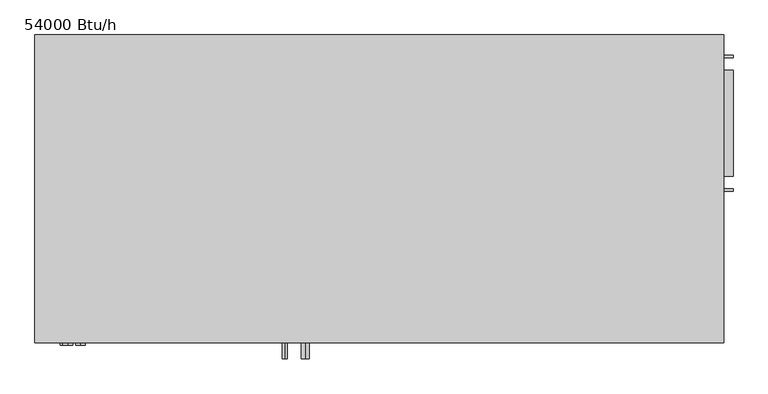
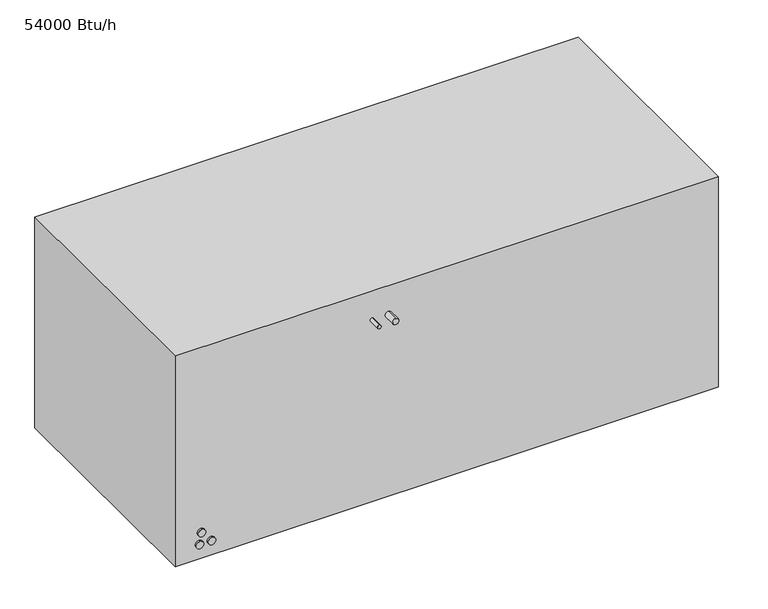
"""IFC4 building model written with IfcOpenShell, lengths in millimetres: proxy geometry, Lennox-VRF-Concealed_Vertical_Air_Handler-VVCA-2P_Series : 54000 Btu/h."""

from ifc_helpers import new_model, si_unit, point, frame, frame_2d, origin, place, context, project, spatial, polyline, circle_curve, trimmed, segment, composite_curve, outline, extrude, faceted_brep, source, transform, mapped, element, save


def proxy_54000_btu_h_7d7a4dff(model_context):
    return source(origin(), model_context, "Body", "SolidModel", [
        extrude(outline(composite_curve([segment(trimmed(circle_curve(frame_2d((40.0, -632.0)), 9.525), [point((49.525, -632.0))], [point((30.475, -632.0))], False, "CARTESIAN"), True, "CONTINUOUS"), segment(trimmed(circle_curve(frame_2d((40.0, -632.0)), 9.525), [point((30.475, -632.0))], [point((49.525, -632.0))], False, "CARTESIAN"), True, "CONTINUOUS")], self_intersect=False)), frame((0.0, -310.0, 0.0), z_axis=(0.0, 1.0, 0.0), x_axis=(0.0, 0.0, 1.0)), (0.0, 0.0, 1.0), 5.0),
        extrude(outline(composite_curve([segment(trimmed(circle_curve(frame_2d((70.0, -627.0)), 9.525), [point((79.525, -627.0))], [point((60.475, -627.0))], False, "CARTESIAN"), True, "CONTINUOUS"), segment(trimmed(circle_curve(frame_2d((70.0, -627.0)), 9.525), [point((60.475, -627.0))], [point((79.525, -627.0))], False, "CARTESIAN"), True, "CONTINUOUS")], self_intersect=False)), frame((0.0, -310.0, 0.0), z_axis=(0.0, 1.0, 0.0), x_axis=(0.0, 0.0, 1.0)), (0.0, 0.0, 1.0), 5.0),
        extrude(outline(composite_curve([segment(trimmed(circle_curve(frame_2d((40.0, -602.0)), 9.525), [point((49.525, -602.0))], [point((30.475, -602.0))], False, "CARTESIAN"), True, "CONTINUOUS"), segment(trimmed(circle_curve(frame_2d((40.0, -602.0)), 9.525), [point((30.475, -602.0))], [point((49.525, -602.0))], False, "CARTESIAN"), True, "CONTINUOUS")], self_intersect=False)), frame((0.0, -310.0, 0.0), z_axis=(0.0, 1.0, 0.0), x_axis=(0.0, 0.0, 1.0)), (0.0, 0.0, 1.0), 5.0),
        extrude(outline(composite_curve([segment(trimmed(circle_curve(frame_2d((484.0, -197.0)), 4.7625), [point((488.7625, -197.0))], [point((479.2375, -197.0))], False, "CARTESIAN"), True, "CONTINUOUS"), segment(trimmed(circle_curve(frame_2d((484.0, -197.0)), 4.7625), [point((479.2375, -197.0))], [point((488.7625, -197.0))], False, "CARTESIAN"), True, "CONTINUOUS")], self_intersect=False)), frame((0.0, -337.0, 0.0), z_axis=(0.0, 1.0, 0.0), x_axis=(0.0, 0.0, 1.0)), (0.0, 0.0, 1.0), 32.0),
        extrude(outline(composite_curve([segment(trimmed(circle_curve(frame_2d((484.0, -156.0)), 7.9375), [point((491.9375, -156.0))], [point((476.0625, -156.0))], False, "CARTESIAN"), True, "CONTINUOUS"), segment(trimmed(circle_curve(frame_2d((484.0, -156.0)), 7.9375), [point((476.0625, -156.0))], [point((491.9375, -156.0))], False, "CARTESIAN"), True, "CONTINUOUS")], self_intersect=False)), frame((0.0, -337.0, 0.0), z_axis=(0.0, 1.0, 0.0), x_axis=(0.0, 0.0, 1.0)), (0.0, 0.0, 1.0), 32.0),
        extrude(outline(polyline([(692.0, 235.0), (692.0, 25.0), (673.0, 25.0), (673.0, 235.0), (692.0, 235.0)])), frame((0.0, 0.0, 527.5), z_axis=(0.0, 0.0, 1.0), x_axis=(1.0, 0.0, 0.0)), (0.0, 0.0, 1.0), 5.0),
        extrude(outline(polyline([(692.0, 235.0), (692.0, 25.0), (673.0, 25.0), (673.0, 235.0), (692.0, 235.0)])), frame((0.0, 0.0, 27.5), z_axis=(0.0, 0.0, 1.0), x_axis=(1.0, 0.0, 0.0)), (0.0, 0.0, 1.0), 5.0),
        extrude(outline(polyline([(692.0, 265.0), (692.0, 260.0), (673.0, 260.0), (673.0, 265.0), (692.0, 265.0)])), frame((0.0, 0.0, 57.5), z_axis=(0.0, 0.0, 1.0), x_axis=(1.0, 0.0, 0.0)), (0.0, 0.0, 1.0), 445.0),
        extrude(outline(polyline([(692.0, 0.0), (692.0, -5.0), (673.0, -5.0), (673.0, 0.0), (692.0, 0.0)])), frame((0.0, 0.0, 57.5), z_axis=(0.0, 0.0, 1.0), x_axis=(1.0, 0.0, 0.0)), (0.0, 0.0, 1.0), 445.0),
        faceted_brep([(673.0, 305.0, 0.0), (673.0, 305.0, 560.0), (673.0, -305.0, 560.0), (673.0, -305.0, 0.0), (673.0, 260.0, 527.5), (673.0, 260.0, 32.5), (673.0, 0.0, 32.5), (673.0, 0.0, 527.5), (-692.0, 305.0, 0.0), (-692.0, -305.0, 0.0), (-692.0, -305.0, 560.0), (-692.0, 305.0, 560.0), (653.0, 260.0, 32.5), (653.0, 260.0, 527.5), (653.0, 0.0, 527.5), (653.0, 0.0, 32.5)], [[[0, 1, 2, 3], [4, 5, 6, 7]], [[8, 9, 10, 11]], [[1, 0, 8, 11]], [[2, 1, 11, 10]], [[3, 2, 10, 9]], [[0, 3, 9, 8]], [[12, 13, 14, 15]], [[13, 12, 5, 4]], [[14, 13, 4, 7]], [[15, 14, 7, 6]], [[12, 15, 6, 5]]]),
    ])


if __name__ == "__main__":
    model = new_model("IFC4")
    model_context = context("Model", 3, world=origin())
    ifc_project = project(units=[si_unit("LENGTHUNIT", "METRE", prefix="MILLI")], contexts=[model_context])
    site = spatial("IfcSite", under=ifc_project)
    building = spatial("IfcBuilding", under=site)
    placement = place(None, origin())
    proxy_54000_btu_h_shape = proxy_54000_btu_h_7d7a4dff(model_context)
    element("IfcBuildingElementProxy", 1, Name="Lennox-VRF-Concealed_Vertical_Air_Handler-VVCA-2P_Series : 54000 Btu/h", ObjectType="Lennox-VRF-Concealed_Vertical_Air_Handler-VVCA-2P_Series : 54000 Btu/h", at=placement, inside=building, context=model_context, shape_type="MappedRepresentation", body=[
        mapped(proxy_54000_btu_h_shape, transform((0.0, 0.0, 0.0), x_axis=(1.0, 0.0, 0.0), y_axis=(0.0, 1.0, 0.0), z_axis=(0.0, 0.0, 1.0))),
    ])
    save(model, "model.ifc")
